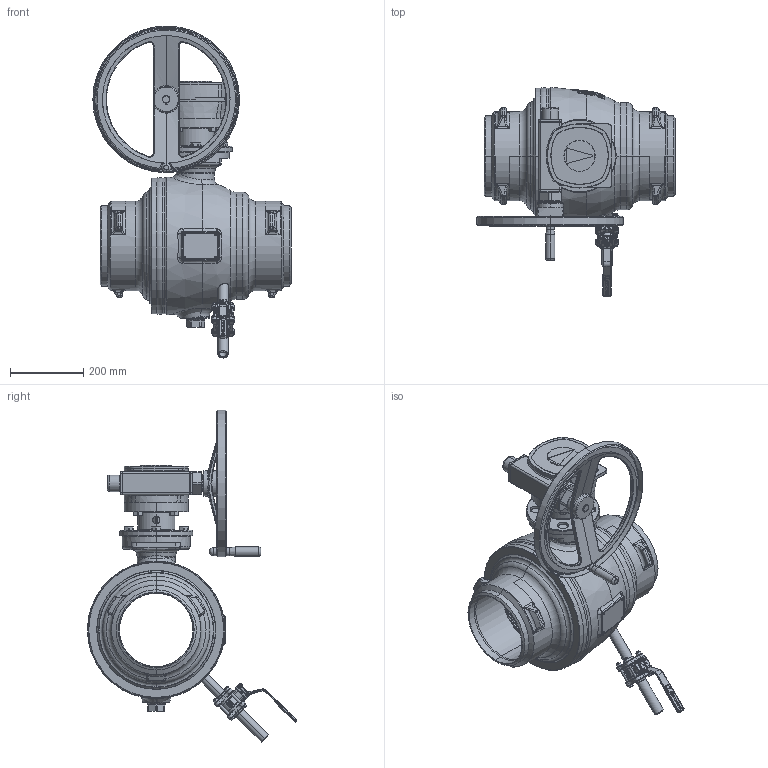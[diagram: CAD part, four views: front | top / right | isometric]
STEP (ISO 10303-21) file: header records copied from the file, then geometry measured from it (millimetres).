
FILE_DESCRIPTION((''),'2;1');
FILE_NAME('200_ASM','2017-01-16T',('schwaba'),('RAND'),'PRO/ENGINEER BY PARAMETRIC TECHNOLOGY CORPORATION, 2016100','PRO/ENGINEER BY PARAMETRIC TECHNOLOGY CORPORATION, 2016100','');
FILE_SCHEMA(('CONFIG_CONTROL_DESIGN'));
Products named in the file (3): KHSVI_200_VVSN_FR_WE_ENTL_O_IT; GS80_F14_AHR400_ZWSTK_DN200; 200_ASM
Assembly tree (2 placements, depth 2):
  200_ASM
    KHSVI_200_VVSN_FR_WE_ENTL_O_IT
    GS80_F14_AHR400_ZWSTK_DN200
Bounding box: 540.5 x 570.55 x 905.16 mm (x, y, z)
Volume: 20179905.7 mm3; surface area: 2585770.1 mm2
Topology: 3 solids, 11 shells, 4785 faces, 12147 edges, 7524 vertices
Faces by surface type: plane 2390, cylinder 860, bspline 489, torus 466, cone 463, sphere 117
Entity records: 219601 total; most frequent: CARTESIAN_POINT 106706, ORIENTED_EDGE 24182, DIRECTION 23207, EDGE_CURVE 12091, AXIS2_PLACEMENT_3D 8765, VERTEX_POINT 7524, VECTOR 5677, LINE 5677
